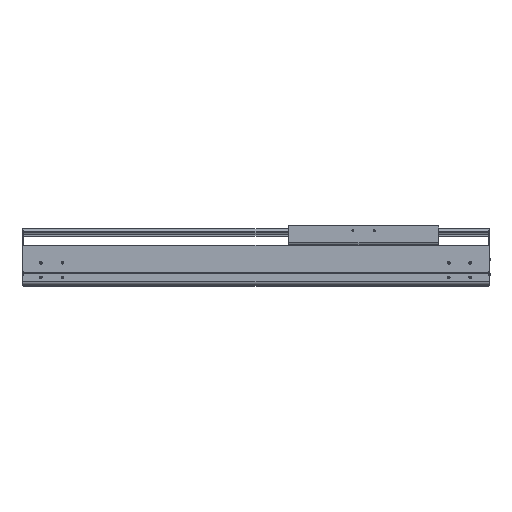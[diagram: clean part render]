
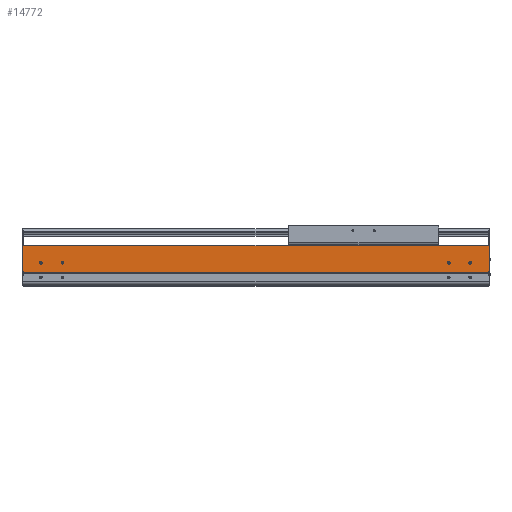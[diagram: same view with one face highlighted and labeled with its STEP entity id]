
A CAD part, top view. The second image highlights one B-rep face of the part: STEP entity #14772.
In plain terms, the highlighted planar face has unit normal (0, 0, 1).
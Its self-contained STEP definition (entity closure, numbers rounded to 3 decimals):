
#758=DIRECTION('',(1.,0.,0.));
#759=VECTOR('',#758,2.);
#760=CARTESIAN_POINT('',(-1086.,34.65,107.));
#761=LINE('',#760,#759);
#762=CARTESIAN_POINT('',(-42.,54.,107.));
#763=DIRECTION('',(0.,0.,-1.));
#764=DIRECTION('',(1.,0.,0.));
#765=AXIS2_PLACEMENT_3D('',#762,#763,#764);
#767=CARTESIAN_POINT('',(-42.,54.,107.));
#768=DIRECTION('',(0.,0.,-1.));
#769=DIRECTION('',(-1.,0.,0.));
#770=AXIS2_PLACEMENT_3D('',#767,#768,#769);
#772=CARTESIAN_POINT('',(-92.,54.,107.));
#773=DIRECTION('',(0.,0.,-1.));
#774=DIRECTION('',(1.,0.,0.));
#775=AXIS2_PLACEMENT_3D('',#772,#773,#774);
#777=CARTESIAN_POINT('',(-92.,54.,107.));
#778=DIRECTION('',(0.,0.,-1.));
#779=DIRECTION('',(-1.,0.,0.));
#780=AXIS2_PLACEMENT_3D('',#777,#778,#779);
#782=CARTESIAN_POINT('',(-1044.,54.,107.));
#783=DIRECTION('',(0.,0.,-1.));
#784=DIRECTION('',(1.,0.,0.));
#785=AXIS2_PLACEMENT_3D('',#782,#783,#784);
#787=CARTESIAN_POINT('',(-1044.,54.,107.));
#788=DIRECTION('',(0.,0.,-1.));
#789=DIRECTION('',(-1.,0.,0.));
#790=AXIS2_PLACEMENT_3D('',#787,#788,#789);
#792=CARTESIAN_POINT('',(-994.,54.,107.));
#793=DIRECTION('',(0.,0.,-1.));
#794=DIRECTION('',(1.,0.,0.));
#795=AXIS2_PLACEMENT_3D('',#792,#793,#794);
#797=CARTESIAN_POINT('',(-994.,54.,107.));
#798=DIRECTION('',(0.,0.,-1.));
#799=DIRECTION('',(-1.,0.,0.));
#800=AXIS2_PLACEMENT_3D('',#797,#798,#799);
#802=DIRECTION('',(0.,-1.,0.));
#803=VECTOR('',#802,2.55);
#804=CARTESIAN_POINT('',(-1084.,34.65,107.));
#805=LINE('',#804,#803);
#806=DIRECTION('',(0.,-1.,0.));
#807=VECTOR('',#806,58.85);
#808=CARTESIAN_POINT('',(-1086.,93.5,107.));
#809=LINE('',#808,#807);
#810=DIRECTION('',(0.,1.,0.));
#811=VECTOR('',#810,58.85);
#812=CARTESIAN_POINT('',(2.,34.65,107.));
#813=LINE('',#812,#811);
#814=DIRECTION('',(0.,1.,0.));
#815=VECTOR('',#814,2.55);
#816=CARTESIAN_POINT('',(0.,32.1,107.));
#817=LINE('',#816,#815);
#922=DIRECTION('',(-1.,0.,0.));
#923=VECTOR('',#922,1088.);
#924=CARTESIAN_POINT('',(2.,93.5,107.));
#925=LINE('',#924,#923);
#1774=DIRECTION('',(1.,0.,0.));
#1775=VECTOR('',#1774,2.);
#1776=CARTESIAN_POINT('',(0.,34.65,107.));
#1777=LINE('',#1776,#1775);
#10402=DIRECTION('',(1.,0.,0.));
#10403=VECTOR('',#10402,1084.);
#10404=CARTESIAN_POINT('',(-1084.,32.1,107.));
#10405=LINE('',#10404,#10403);
#10867=CARTESIAN_POINT('',(-1086.,34.65,107.));
#10868=VERTEX_POINT('',#10867);
#10869=CARTESIAN_POINT('',(-1086.,93.5,107.));
#10870=VERTEX_POINT('',#10869);
#11091=CARTESIAN_POINT('',(-1084.,32.1,107.));
#11092=VERTEX_POINT('',#11091);
#11163=CARTESIAN_POINT('',(0.,32.1,107.));
#11164=VERTEX_POINT('',#11163);
#11505=CARTESIAN_POINT('',(-39.5,54.,107.));
#11506=CARTESIAN_POINT('',(-44.5,54.,107.));
#11507=VERTEX_POINT('',#11505);
#11508=VERTEX_POINT('',#11506);
#11509=CARTESIAN_POINT('',(-89.5,54.,107.));
#11510=CARTESIAN_POINT('',(-94.5,54.,107.));
#11511=VERTEX_POINT('',#11509);
#11512=VERTEX_POINT('',#11510);
#11513=CARTESIAN_POINT('',(-1041.5,54.,107.));
#11514=CARTESIAN_POINT('',(-1046.5,54.,107.));
#11515=VERTEX_POINT('',#11513);
#11516=VERTEX_POINT('',#11514);
#11517=CARTESIAN_POINT('',(-991.5,54.,107.));
#11518=CARTESIAN_POINT('',(-996.5,54.,107.));
#11519=VERTEX_POINT('',#11517);
#11520=VERTEX_POINT('',#11518);
#12526=CARTESIAN_POINT('',(2.,34.65,107.));
#12527=VERTEX_POINT('',#12526);
#12528=CARTESIAN_POINT('',(2.,93.5,107.));
#12529=VERTEX_POINT('',#12528);
#12748=CARTESIAN_POINT('',(0.,34.65,107.));
#12749=VERTEX_POINT('',#12748);
#13060=CARTESIAN_POINT('',(-1084.,34.65,107.));
#13061=VERTEX_POINT('',#13060);
#14728=CARTESIAN_POINT('',(-542.,62.8,107.));
#14729=DIRECTION('',(0.,0.,1.));
#14730=DIRECTION('',(0.,-1.,0.));
#14731=AXIS2_PLACEMENT_3D('',#14728,#14729,#14730);
#14732=PLANE('',#14731);
#14733=ORIENTED_EDGE('',*,*,#14091,.F.);
#14734=ORIENTED_EDGE('',*,*,#14723,.F.);
#14735=ORIENTED_EDGE('',*,*,#13966,.F.);
#14737=ORIENTED_EDGE('',*,*,#14736,.F.);
#14739=ORIENTED_EDGE('',*,*,#14738,.F.);
#14741=ORIENTED_EDGE('',*,*,#14740,.F.);
#14743=ORIENTED_EDGE('',*,*,#14742,.F.);
#14745=ORIENTED_EDGE('',*,*,#14744,.F.);
#14746=EDGE_LOOP('',(#14733,#14734,#14735,#14737,#14739,#14741,#14743,#14745));
#14747=FACE_OUTER_BOUND('',#14746,.F.);
#14749=ORIENTED_EDGE('',*,*,#14748,.F.);
#14751=ORIENTED_EDGE('',*,*,#14750,.F.);
#14752=EDGE_LOOP('',(#14749,#14751));
#14753=FACE_BOUND('',#14752,.F.);
#14755=ORIENTED_EDGE('',*,*,#14754,.F.);
#14757=ORIENTED_EDGE('',*,*,#14756,.F.);
#14758=EDGE_LOOP('',(#14755,#14757));
#14759=FACE_BOUND('',#14758,.F.);
#14761=ORIENTED_EDGE('',*,*,#14760,.F.);
#14763=ORIENTED_EDGE('',*,*,#14762,.F.);
#14764=EDGE_LOOP('',(#14761,#14763));
#14765=FACE_BOUND('',#14764,.F.);
#14767=ORIENTED_EDGE('',*,*,#14766,.F.);
#14769=ORIENTED_EDGE('',*,*,#14768,.F.);
#14770=EDGE_LOOP('',(#14767,#14769));
#14771=FACE_BOUND('',#14770,.F.);
#14772=ADVANCED_FACE('',(#14747,#14753,#14759,#14765,#14771),#14732,.T.);
#766=CIRCLE('',#765,2.5);
#771=CIRCLE('',#770,2.5);
#776=CIRCLE('',#775,2.5);
#781=CIRCLE('',#780,2.5);
#786=CIRCLE('',#785,2.5);
#791=CIRCLE('',#790,2.5);
#796=CIRCLE('',#795,2.5);
#801=CIRCLE('',#800,2.5);
#13966=EDGE_CURVE('',#10870,#10868,#809,.T.);
#14091=EDGE_CURVE('',#13061,#11092,#805,.T.);
#14723=EDGE_CURVE('',#10868,#13061,#761,.T.);
#14736=EDGE_CURVE('',#12529,#10870,#925,.T.);
#14738=EDGE_CURVE('',#12527,#12529,#813,.T.);
#14740=EDGE_CURVE('',#12749,#12527,#1777,.T.);
#14742=EDGE_CURVE('',#11164,#12749,#817,.T.);
#14744=EDGE_CURVE('',#11092,#11164,#10405,.T.);
#14748=EDGE_CURVE('',#11511,#11512,#776,.T.);
#14750=EDGE_CURVE('',#11512,#11511,#781,.T.);
#14754=EDGE_CURVE('',#11515,#11516,#786,.T.);
#14756=EDGE_CURVE('',#11516,#11515,#791,.T.);
#14760=EDGE_CURVE('',#11519,#11520,#796,.T.);
#14762=EDGE_CURVE('',#11520,#11519,#801,.T.);
#14766=EDGE_CURVE('',#11507,#11508,#766,.T.);
#14768=EDGE_CURVE('',#11508,#11507,#771,.T.);
